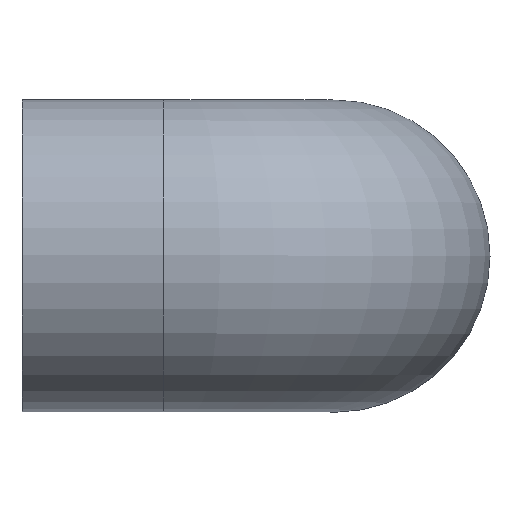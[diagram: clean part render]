
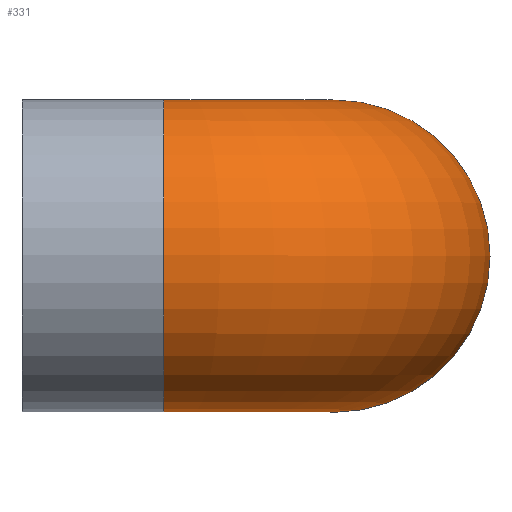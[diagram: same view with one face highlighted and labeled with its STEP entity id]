
A CAD part, top view. The second image highlights one B-rep face of the part: STEP entity #331.
In plain terms, the highlighted toroidal (fillet/blend) face has major radius 18 mm and minor radius 16.5 mm.
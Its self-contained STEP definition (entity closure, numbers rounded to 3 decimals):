
#19=FACE_BOUND('',#92,.T.);
#24=TOROIDAL_SURFACE('',#357,18.,16.5);
#65=FACE_OUTER_BOUND('',#91,.T.);
#91=EDGE_LOOP('',(#287));
#92=EDGE_LOOP('',(#288));
#110=CIRCLE('',#356,16.5);
#111=CIRCLE('',#358,16.5);
#164=VERTEX_POINT('',#7804);
#165=VERTEX_POINT('',#7807);
#208=EDGE_CURVE('',#164,#164,#110,.T.);
#209=EDGE_CURVE('',#165,#165,#111,.T.);
#287=ORIENTED_EDGE('',*,*,#208,.F.);
#288=ORIENTED_EDGE('',*,*,#209,.T.);
#331=ADVANCED_FACE('',(#65,#19),#24,.T.);
#356=AXIS2_PLACEMENT_3D('',#7805,#409,#410);
#357=AXIS2_PLACEMENT_3D('',#7806,#411,#412);
#358=AXIS2_PLACEMENT_3D('',#7808,#413,#414);
#409=DIRECTION('center_axis',(-1.,0.,0.));
#410=DIRECTION('ref_axis',(0.,0.,-1.));
#411=DIRECTION('center_axis',(0.,-1.,0.));
#412=DIRECTION('ref_axis',(0.,0.,-1.));
#413=DIRECTION('center_axis',(0.,0.,1.));
#414=DIRECTION('ref_axis',(-1.,0.,0.));
#7804=CARTESIAN_POINT('',(-18.,0.,49.5));
#7805=CARTESIAN_POINT('Origin',(-18.,0.,33.));
#7806=CARTESIAN_POINT('Origin',(-18.,0.,15.));
#7807=CARTESIAN_POINT('',(16.5,0.,15.));
#7808=CARTESIAN_POINT('Origin',(0.,0.,15.));
